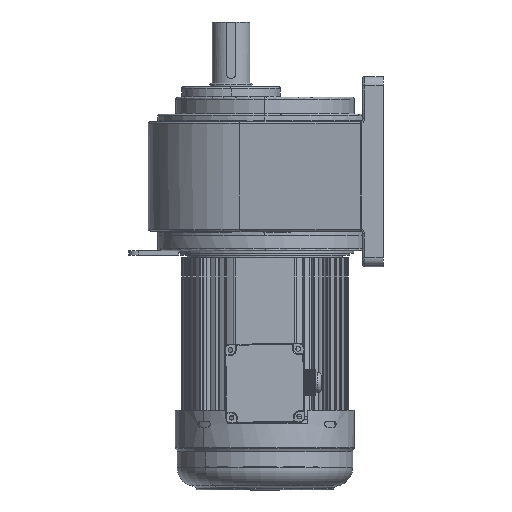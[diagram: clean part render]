
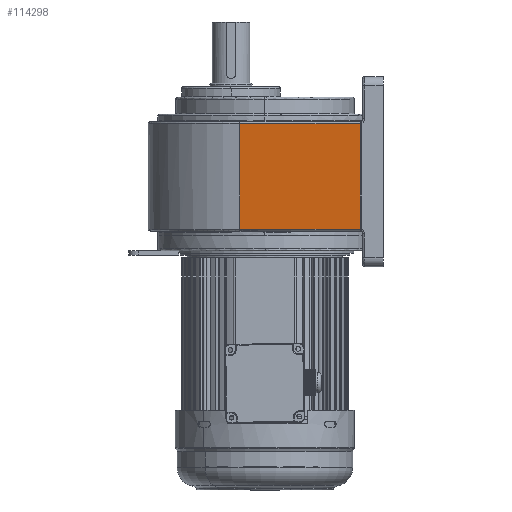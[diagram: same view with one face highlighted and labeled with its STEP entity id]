
A CAD part, left-side view. The second image highlights one B-rep face of the part: STEP entity #114298.
In plain terms, the highlighted planar face has unit normal (-0.989, 0.149, 0).
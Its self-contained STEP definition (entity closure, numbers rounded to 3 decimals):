
#2002 = VERTEX_POINT ( 'NONE', #123621 ) ;
#3750 = VECTOR ( 'NONE', #153258, 1000. ) ;
#7209 = VECTOR ( 'NONE', #96963, 1000. ) ;
#12915 = VERTEX_POINT ( 'NONE', #16925 ) ;
#14774 = CARTESIAN_POINT ( 'NONE',  ( -112.723, 27.016, 119.5 ) ) ;
#16925 = CARTESIAN_POINT ( 'NONE',  ( -132.115, -101.448, 117.5 ) ) ;
#21432 = LINE ( 'NONE', #70373, #83850 ) ;
#28733 = LINE ( 'NONE', #77681, #141786 ) ;
#47973 = CARTESIAN_POINT ( 'NONE',  ( -132.115, -101.448, 117.5 ) ) ;
#52075 = VERTEX_POINT ( 'NONE', #67398 ) ;
#55290 = LINE ( 'NONE', #104280, #3750 ) ;
#59248 = EDGE_CURVE ( 'NONE', #107338, #2002, #28733, .T. ) ;
#63692 = DIRECTION ( 'NONE',  ( -0.989, 0.149, 0. ) ) ;
#67080 = AXIS2_PLACEMENT_3D ( 'NONE', #14774, #63692, #112692 ) ;
#67398 = CARTESIAN_POINT ( 'NONE',  ( -112.723, 27.016, 117.5 ) ) ;
#70373 = CARTESIAN_POINT ( 'NONE',  ( -112.723, 27.016, 3. ) ) ;
#70639 = ORIENTED_EDGE ( 'NONE', *, *, #90499, .F. ) ;
#75741 = FACE_OUTER_BOUND ( 'NONE', #145957, .T. ) ;
#77681 = CARTESIAN_POINT ( 'NONE',  ( -112.723, 27.016, 5. ) ) ;
#83850 = VECTOR ( 'NONE', #119357, 1000. ) ;
#84243 = ORIENTED_EDGE ( 'NONE', *, *, #106399, .T. ) ;
#86214 = ORIENTED_EDGE ( 'NONE', *, *, #59248, .T. ) ;
#90499 = EDGE_CURVE ( 'NONE', #107338, #52075, #21432, .T. ) ;
#96963 = DIRECTION ( 'NONE',  ( 0.149, 0.989, 0. ) ) ;
#103633 = ORIENTED_EDGE ( 'NONE', *, *, #149488, .T. ) ;
#104280 = CARTESIAN_POINT ( 'NONE',  ( -132.115, -101.448, 119.5 ) ) ;
#106052 = CARTESIAN_POINT ( 'NONE',  ( -112.723, 27.016, 5. ) ) ;
#106399 = EDGE_CURVE ( 'NONE', #12915, #52075, #157976, .T. ) ;
#107338 = VERTEX_POINT ( 'NONE', #106052 ) ;
#112692 = DIRECTION ( 'NONE',  ( -0.149, -0.989, 0. ) ) ;
#114298 = ADVANCED_FACE ( 'NONE', ( #75741 ), #124731, .T. ) ;
#119357 = DIRECTION ( 'NONE',  ( 0., 0., 1. ) ) ;
#123621 = CARTESIAN_POINT ( 'NONE',  ( -132.115, -101.448, 5. ) ) ;
#124731 = PLANE ( 'NONE',  #67080 ) ;
#126672 = DIRECTION ( 'NONE',  ( -0.149, -0.989, 0. ) ) ;
#141786 = VECTOR ( 'NONE', #126672, 1000. ) ;
#145957 = EDGE_LOOP ( 'NONE', ( #86214, #103633, #84243, #70639 ) ) ;
#149488 = EDGE_CURVE ( 'NONE', #2002, #12915, #55290, .T. ) ;
#153258 = DIRECTION ( 'NONE',  ( 0., 0., 1. ) ) ;
#157976 = LINE ( 'NONE', #47973, #7209 ) ;
